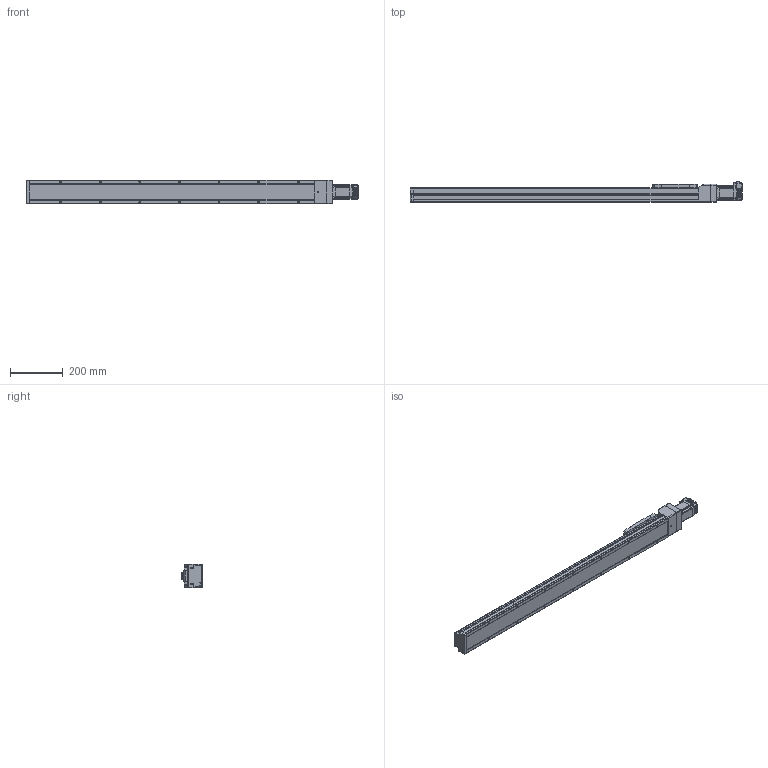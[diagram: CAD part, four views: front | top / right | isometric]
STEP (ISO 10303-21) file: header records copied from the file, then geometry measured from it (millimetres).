
FILE_DESCRIPTION (( 'STEP AP214' ), '1' );
FILE_NAME ('LEFS3(+)-40NM1仩-900-23L.STEP', '2023-06-02T05:20:27', ( '' ), ( '' ), 'SwSTEP 2.0', 'SolidWorks 2019', '' );
FILE_SCHEMA (( 'AUTOMOTIVE_DESIGN' ));
Length unit declared in the file: millimetre
Products named in the file (5): LEFS3(+)-40NM1_TABLE; CM3(+)-23L50A_4-M4; LEFS3(+)-40NM1?_BODY_900; LEFS3(+)-40NM1_Motor Flange; LEFS3(+)-40NM1仩-900-23L
Assembly tree (4 placements, depth 2):
  LEFS3(+)-40NM1仩-900-23L
    LEFS3(+)-40NM1?_BODY_900
    LEFS3(+)-40NM1_TABLE
    LEFS3(+)-40NM1_Motor Flange
    CM3(+)-23L50A_4-M4
Bounding box: 1257.6 x 76.75 x 90 mm (x, y, z)
Volume: 5252943.8 mm3; surface area: 453244.1 mm2
Topology: 5 solids, 14 shells, 1662 faces, 4317 edges, 2672 vertices
Faces by surface type: plane 764, cylinder 527, bspline 133, cone 117, torus 74, sphere 47
Entity records: 56369 total; most frequent: CARTESIAN_POINT 14057, ORIENTED_EDGE 8484, DIRECTION 7922, EDGE_CURVE 4242, AXIS2_PLACEMENT_3D 2700, VERTEX_POINT 2672, VECTOR 2522, LINE 2522
